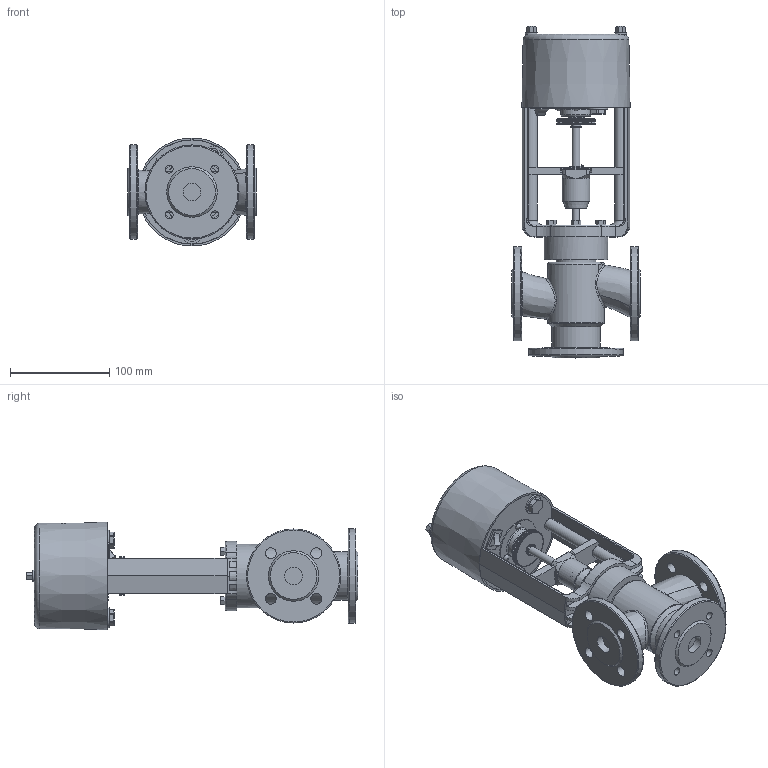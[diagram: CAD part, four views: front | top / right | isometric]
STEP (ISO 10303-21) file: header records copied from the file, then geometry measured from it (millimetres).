
FILE_DESCRIPTION(/* description */ (''),/* implementation_level */ '2;1');
FILE_NAME(/* name */ 'D:\Работа\work by\2017.01.17. клапаны для КПСР 3-хходоввые\Готовые файлы\ES 05\iges\Ду 15.stp',/* time_stamp */ '2017-02-19T18:00:19+03:00',/* author */ ('Admin'),/* organization */ ('unknown'),/* preprocessor_version */ 'ST-DEVELOPER v16.1',/* originating_system */ 'Autodesk Inventor 2016',/* authorisation */ '');
FILE_SCHEMA (('AUTOMOTIVE_DESIGN { 1 0 10303 214 3 1 1 }'));
Length unit declared in the file: millimetre
Products named in the file (1): Ду 15
Bounding box: 130 x 335.13 x 108.86 mm (x, y, z)
Volume: 772087.5 mm3; surface area: 237642.8 mm2
Topology: 2 solids, 2 shells, 1230 faces, 3408 edges, 2205 vertices
Faces by surface type: plane 564, cylinder 315, bspline 222, cone 66, torus 52, sphere 11
Full cylindrical faces by diameter (mm): 5.1 x4, 6 x3, 7 x4, 7.1 x1, 8 x7, 8.4 x1, 8.5 x2, 9.18 x1, 9.2 x1, 9.22 x1, 9.3 x1, 11 x9, 11.9 x1, 11.97 x1, 12 x6, 13.5 x1, 14 x2, 14.5 x1, 16 x3, 16.8 x1, 16.9 x1, 17.1 x1, 18 x5, 19.3 x1, 20 x3, 22 x1, 25.7 x4, 26 x1, 26.5 x1, 28 x2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
Entity records: 45025 total; most frequent: CARTESIAN_POINT 15709, ORIENTED_EDGE 6406, DIRECTION 5494, EDGE_CURVE 3200, VERTEX_POINT 2153, AXIS2_PLACEMENT_3D 1861, LINE 1772, VECTOR 1772
